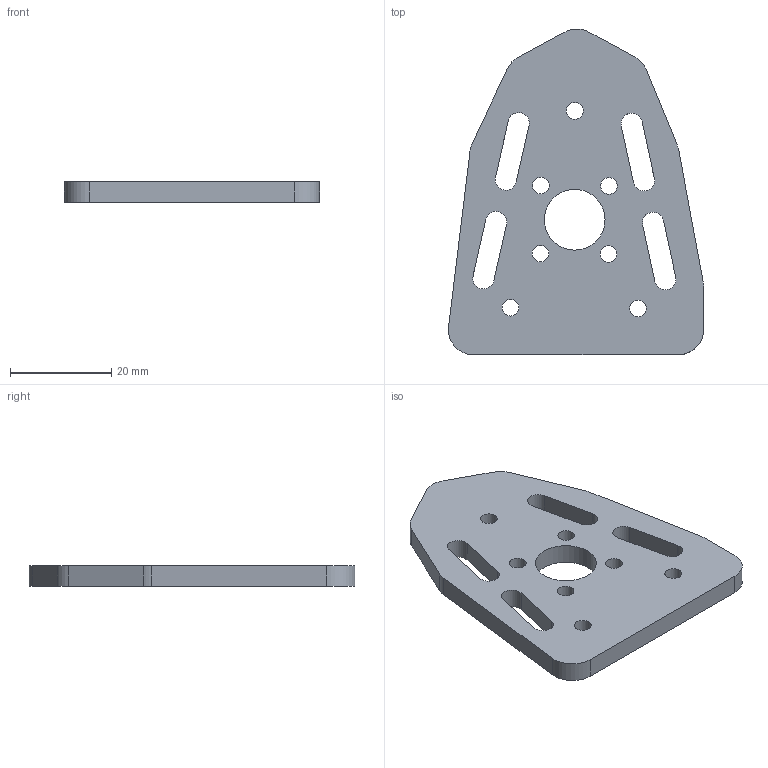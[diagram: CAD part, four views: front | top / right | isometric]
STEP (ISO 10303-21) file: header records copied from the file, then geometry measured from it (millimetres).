
FILE_DESCRIPTION(('FreeCAD Model'),'2;1');
FILE_NAME('Open CASCADE Shape Model','2026-10-17T00:49:22',(''),(''), 'Open CASCADE STEP processor 7.8','FreeCAD','Unknown');
FILE_SCHEMA(('AUTOMOTIVE_DESIGN { 1 0 10303 214 1 1 1 1 }'));
Length unit declared in the file: millimetre
Products named in the file (1): 04 Socle moteur
Bounding box: 50.35 x 64.32 x 4 mm (x, y, z)
Volume: 8589.4 mm3; surface area: 6090.8 mm2
Topology: 1 solids, 1 shells, 42 faces, 120 edges, 80 vertices
Faces by surface type: cylinder 24, plane 18
Full cylindrical faces by diameter (mm): 3.3 x7, 12 x1
Entity records: 1450 total; most frequent: DIRECTION 254, CARTESIAN_POINT 243, ORIENTED_EDGE 240, EDGE_CURVE 120, AXIS2_PLACEMENT_3D 91, VERTEX_POINT 80, LINE 72, VECTOR 72
